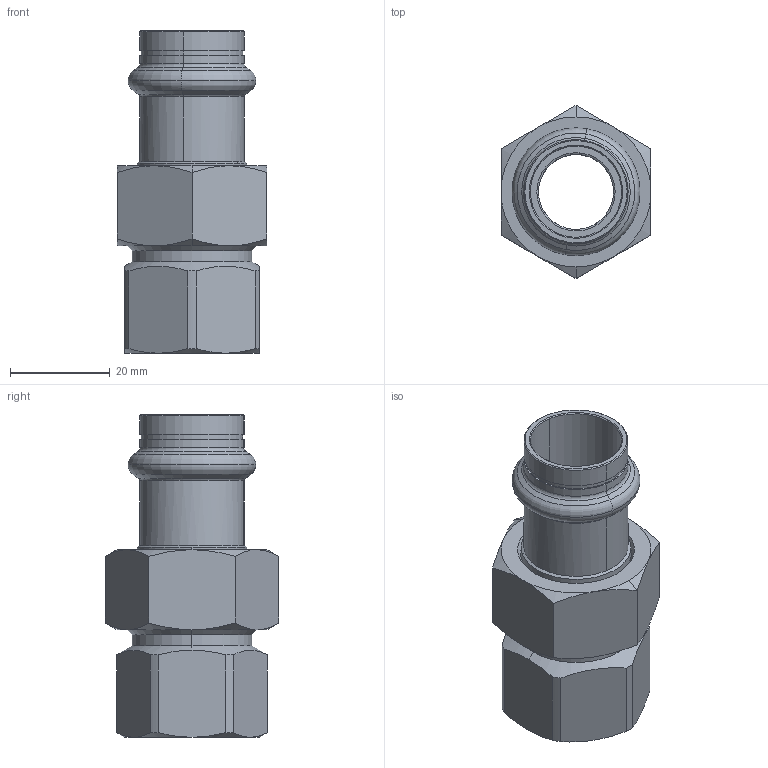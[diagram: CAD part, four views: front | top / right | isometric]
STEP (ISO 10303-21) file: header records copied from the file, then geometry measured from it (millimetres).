
FILE_DESCRIPTION(('CoCreate Modeling STEP Export'),'2;1');
FILE_NAME('8330GVW1812.stp','2013-03-05T13:15:47',(''),(''),'CoCreate Modeling STEP processor for AP214 (Solid Model)','CoCreate Modeling 17.00A 17-Jun-2010 (C) Parametric Technology GmbH','');
FILE_SCHEMA(('AUTOMOTIVE_DESIGN { 1 0 10303 214 1 1 1 1 }'));
Length unit declared in the file: millimetre
Products named in the file (4): DRAAD; MOER; Pressprofiel18_draaideel.1; 8330GVW1812
Assembly tree (3 placements, depth 2):
  8330GVW1812
    Pressprofiel18_draaideel.1
    MOER
    DRAAD
Bounding box: 30 x 34.64 x 64.5 mm (x, y, z)
Volume: 19392.4 mm3; surface area: 13123.4 mm2
Topology: 3 solids, 3 shells, 134 faces, 307 edges, 183 vertices
Faces by surface type: cone 56, cylinder 44, plane 22, torus 12
Entity records: 4863 total; most frequent: CARTESIAN_POINT 2264, ORIENTED_EDGE 614, DIRECTION 368, EDGE_CURVE 307, VERTEX_POINT 183, EDGE_LOOP 144, AXIS2_PLACEMENT_3D 134, FACE_OUTER_BOUND 134
